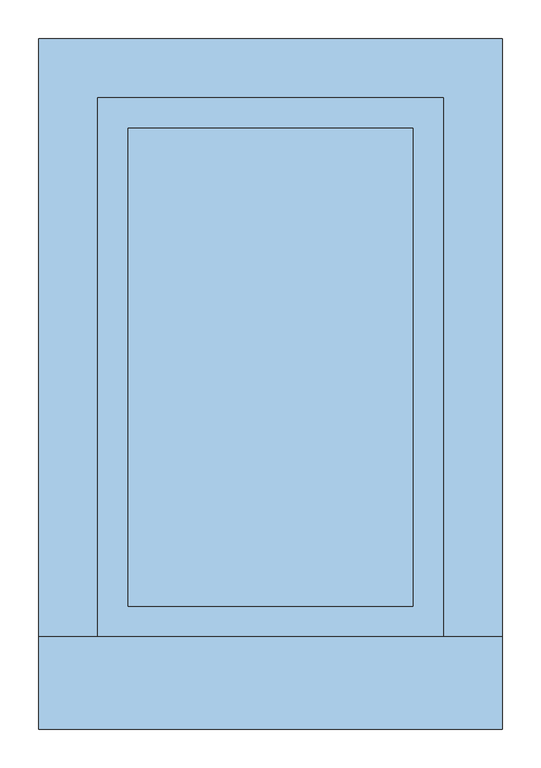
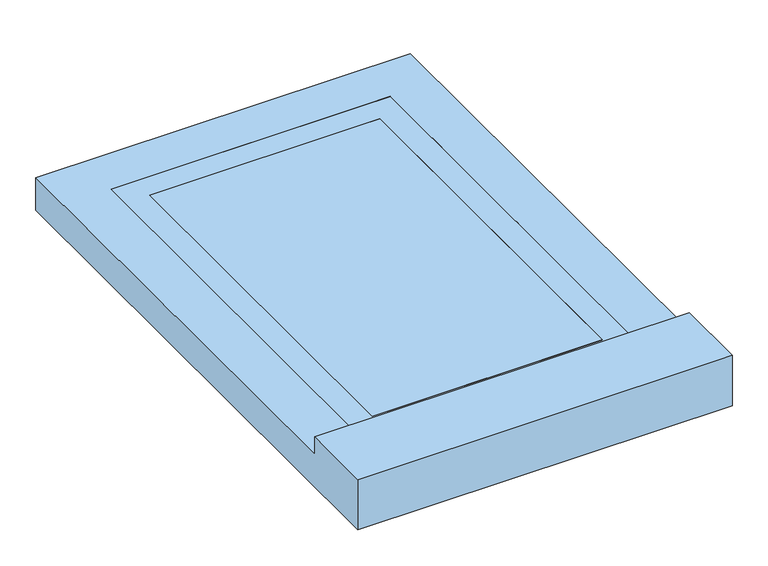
"""IFC4 building model written with IfcOpenShell, lengths in millimetres: window geometry, FR_Fenetre de Toit : 45*70."""

from ifc_helpers import new_model, si_unit, frame, origin, place, context, project, spatial, polyline, outline, extrude, faceted_brep, source, transform, mapped, element, save


def window_be8a8323(model_context):
    return source(origin(), model_context, "Body", "SolidModel", [
        extrude(outline(polyline([(185.0, 310.0), (185.0, -310.0), (-185.0, -310.0), (-185.0, 310.0), (185.0, 310.0)])), frame((0.0, 0.0, 3731.7088296), z_axis=(0.0, 0.0, 1.0), x_axis=(1.0, 0.0, 0.0)), (0.0, 0.0, 1.0), 11.2911704),
        faceted_brep([(-301.2, -470.0, 3773.0), (301.2, -470.0, 3773.0), (301.2, -350.0, 3773.0), (-301.2, -350.0, 3773.0), (-301.2, -470.0, 3687.6), (301.2, -470.0, 3687.6), (301.2, 426.2, 3687.6), (301.2, 426.2, 3743.0), (301.2, -350.0, 3743.0), (225.0, -350.0, 3743.0), (225.0, -350.0, 3737.6), (225.0, -350.0, 3687.6), (-225.0, -350.0, 3687.6), (-225.0, -350.0, 3737.6), (-225.0, -350.0, 3743.0), (-301.2, -350.0, 3743.0), (-301.2, 426.2, 3743.0), (-301.2, 426.2, 3687.6), (-225.0, 350.0, 3743.0), (225.0, 350.0, 3743.0), (225.0, 350.0, 3687.6), (-225.0, 350.0, 3687.6), (225.0, 350.0, 3737.6), (-225.0, 350.0, 3737.6)], [[[0, 1, 2, 3]], [[1, 0, 4, 5]], [[2, 1, 5, 6, 7, 8]], [[3, 2, 8, 9, 10, 11, 12, 13, 14, 15]], [[0, 3, 15, 16, 17, 4]], [[7, 16, 15, 14, 18, 19, 9, 8]], [[6, 5, 4, 17], [20, 21, 12, 11]], [[16, 7, 6, 17]], [[9, 19, 22, 20, 11, 10]], [[18, 14, 13, 12, 21, 23]], [[19, 18, 23, 21, 20, 22]]]),
        extrude(outline(polyline([(-225.0, 350.0), (225.0, 350.0), (225.0, -350.0), (-225.0, -350.0), (-225.0, 350.0)]), holes=[polyline([(185.0, -310.0), (185.0, 310.0), (-185.0, 310.0), (-185.0, -310.0), (185.0, -310.0)])]), frame((0.0, 0.0, 3737.6), z_axis=(0.0, 0.0, 1.0), x_axis=(1.0, 0.0, 0.0)), (0.0, 0.0, 1.0), 5.4),
    ])


if __name__ == "__main__":
    model = new_model("IFC4")
    model_context = context("Model", 3, world=origin())
    ifc_project = project(units=[si_unit("LENGTHUNIT", "METRE", prefix="MILLI")], contexts=[model_context])
    site = spatial("IfcSite", under=ifc_project)
    building = spatial("IfcBuilding", under=site)
    placement = place(None, origin())
    window_shape = window_be8a8323(model_context)
    element("IfcWindow", 1, ObjectType="FR_Fenetre de Toit : 45*70", at=placement, inside=building, context=model_context, shape_type="MappedRepresentation", body=[
        mapped(window_shape, transform((0.0, 0.0, 0.0), x_axis=(1.0, 0.0, 0.0), y_axis=(0.0, 1.0, 0.0), z_axis=(0.0, 0.0, 1.0))),
    ])
    save(model, "model.ifc")
